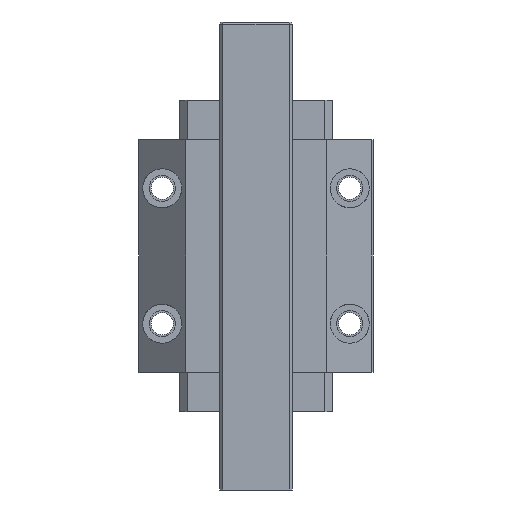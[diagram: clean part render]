
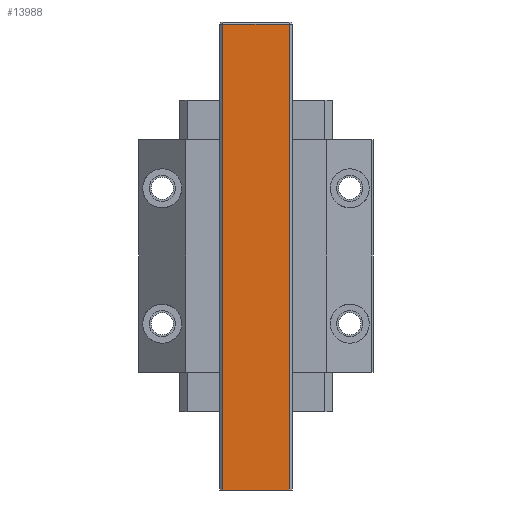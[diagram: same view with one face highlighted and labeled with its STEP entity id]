
A CAD part, front view. The second image highlights one B-rep face of the part: STEP entity #13988.
In plain terms, the highlighted planar face has unit normal (0, -1, 0).
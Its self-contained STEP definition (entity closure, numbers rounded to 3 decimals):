
#12949=DIRECTION('',(1.,0.,0.));
#12950=VECTOR('',#12949,25.6);
#12951=CARTESIAN_POINT('',(-12.8,-16.5,-89.85));
#12952=LINE('',#12951,#12950);
#13222=DIRECTION('',(1.,0.,0.));
#13223=VECTOR('',#13222,25.6);
#13224=CARTESIAN_POINT('',(-12.8,-16.5,88.984));
#13225=LINE('',#13224,#13223);
#13226=DIRECTION('',(0.,0.,1.));
#13227=VECTOR('',#13226,178.834);
#13228=CARTESIAN_POINT('',(-12.8,-16.5,-89.85));
#13229=LINE('',#13228,#13227);
#13234=DIRECTION('',(0.,0.,1.));
#13235=VECTOR('',#13234,178.834);
#13236=CARTESIAN_POINT('',(12.8,-16.5,-89.85));
#13237=LINE('',#13236,#13235);
#13420=CARTESIAN_POINT('',(-12.8,-16.5,-89.85));
#13421=VERTEX_POINT('',#13420);
#13422=CARTESIAN_POINT('',(12.8,-16.5,-89.85));
#13423=VERTEX_POINT('',#13422);
#13484=CARTESIAN_POINT('',(12.8,-16.5,88.984));
#13485=VERTEX_POINT('',#13484);
#13488=CARTESIAN_POINT('',(-12.8,-16.5,88.984));
#13489=VERTEX_POINT('',#13488);
#13976=CARTESIAN_POINT('',(-12.8,-16.5,-89.85));
#13977=DIRECTION('',(0.,-1.,0.));
#13978=DIRECTION('',(1.,0.,0.));
#13979=AXIS2_PLACEMENT_3D('',#13976,#13977,#13978);
#13980=PLANE('',#13979);
#13981=ORIENTED_EDGE('',*,*,#13967,.T.);
#13983=ORIENTED_EDGE('',*,*,#13982,.F.);
#13984=ORIENTED_EDGE('',*,*,#13569,.F.);
#13985=ORIENTED_EDGE('',*,*,#13942,.T.);
#13986=EDGE_LOOP('',(#13981,#13983,#13984,#13985));
#13987=FACE_OUTER_BOUND('',#13986,.F.);
#13569=EDGE_CURVE('',#13421,#13423,#12952,.T.);
#13942=EDGE_CURVE('',#13421,#13489,#13229,.T.);
#13967=EDGE_CURVE('',#13489,#13485,#13225,.T.);
#13982=EDGE_CURVE('',#13423,#13485,#13237,.T.);
#13988=ADVANCED_FACE('',(#13987),#13980,.T.);
